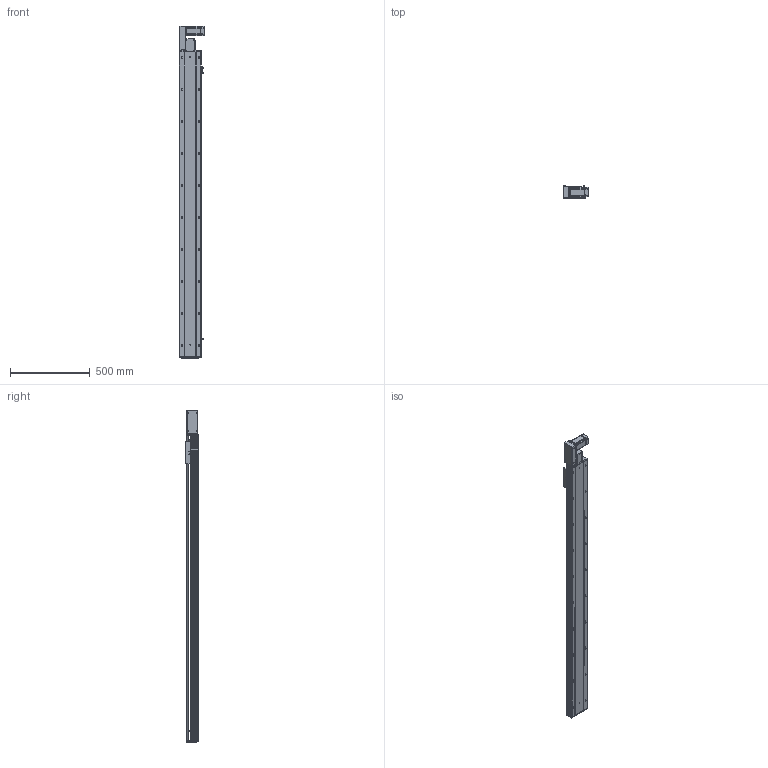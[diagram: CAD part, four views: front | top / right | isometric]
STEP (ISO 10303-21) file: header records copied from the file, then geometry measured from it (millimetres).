
FILE_DESCRIPTION (( 'STEP AP203' ), '1' );
FILE_NAME ('RY140-T-300-LK.SLDASM_1650.step', '2021-03-01T06:36:31', ( '盈信电脑' ), ( '东莞市道滘镇水果街19号' ), 'SwSTEP 2.0', 'SolidWorks 2012', '' );
FILE_SCHEMA (( 'CONFIG_CONTROL_DESIGN' ));
Length unit declared in the file: millimetre
Products named in the file (18): 覜茼ん672; RY120外置感应片(140共用）; RY140-T-300-DL倰第奻裔啣_1650; RY140-T-300-DL倰第菁釱_1650; RY140肮祭謫臏賑輸; RY140綴裔啣; RY140-T-300-LK.SLDASM_1650; 滅袉蝶18-10; RY140-T翋肮謫裔啣; RY140-T萇儂欶; RY120-T蹟翐M4; RY120-T主同步轮轴承压盖; 侂狟400W侜督萇儂; RY120-T肮祭湍揤踡輸1; RY140-T翋肮祭謫盓傅釱; 15; RY140-T萇儂假蚾啣; RY120-T肮祭湍揤踡輸2
Assembly tree (23 placements, depth 3):
  RY140-T-300-LK.SLDASM_1650
    RY140-T-300-DL倰第菁釱_1650
    RY140肮祭謫臏賑輸
    RY140-T-300-DL倰第奻裔啣_1650
    RY140綴裔啣
    覜茼ん672  x3
    RY120外置感应片(140共用）
    RY120-T肮祭湍揤踡輸2
    RY120-T肮祭湍揤踡輸1
    RY140-T翋肮祭謫盓傅釱
    RY140-T萇儂假蚾啣
    侂狟400W侜督萇儂
      15
    RY120-T主同步轮轴承压盖
    RY120-T蹟翐M4  x4
    RY140-T萇儂欶
    滅袉蝶18-10  x2
    RY140-T翋肮謫裔啣
Bounding box: 157 x 78 x 2076.5 mm (x, y, z)
Volume: 5551800.1 mm3; surface area: 2158986.3 mm2
Topology: 22 solids, 22 shells, 2807 faces, 7697 edges, 4910 vertices
Faces by surface type: plane 1381, cylinder 1060, cone 266, bspline 100
Entity records: 88761 total; most frequent: CARTESIAN_POINT 21585, ORIENTED_EDGE 13794, DIRECTION 13173, EDGE_CURVE 6897, VERTEX_POINT 4509, AXIS2_PLACEMENT_3D 4412, VECTOR 4349, LINE 4349
